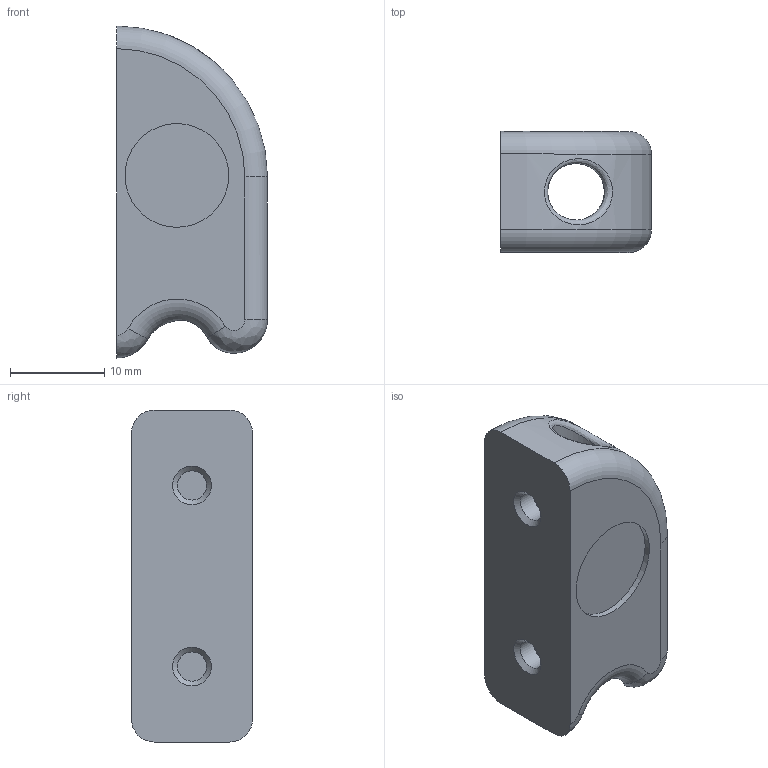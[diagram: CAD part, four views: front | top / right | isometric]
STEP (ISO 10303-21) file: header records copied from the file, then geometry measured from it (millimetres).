
FILE_DESCRIPTION(/* description */ (''),/* implementation_level */ '2;1');
FILE_NAME(/* name */ 'ghost_zipper_remix v9.step',/* time_stamp */ '2023-11-06T10:34:51+01:00',/* author */ (''),/* organization */ (''),/* preprocessor_version */ 'ST-DEVELOPER v20',/* originating_system */ 'Autodesk Translation Framework v12.14.0.127',/* authorisation */ '');
FILE_SCHEMA (('AUTOMOTIVE_DESIGN { 1 0 10303 214 3 1 1 }'));
Length unit declared in the file: millimetre
Products named in the file (2): ghost_zipper_remix; Remix
Assembly tree (1 placements, depth 2):
  ghost_zipper_remix
    Remix
Bounding box: 16 x 12.8 x 35.2 mm (x, y, z)
Volume: 3961 mm3; surface area: 2907.1 mm2
Topology: 1 solids, 1 shells, 44 faces, 105 edges, 67 vertices
Faces by surface type: plane 21, cylinder 12, bspline 5, torus 4, cone 2
Full cylindrical faces by diameter (mm): 3.1 x2, 6 x1, 10 x1, 11 x1
Entity records: 1664 total; most frequent: CARTESIAN_POINT 609, ORIENTED_EDGE 210, DIRECTION 205, EDGE_CURVE 105, AXIS2_PLACEMENT_3D 75, VERTEX_POINT 67, LINE 55, VECTOR 55
